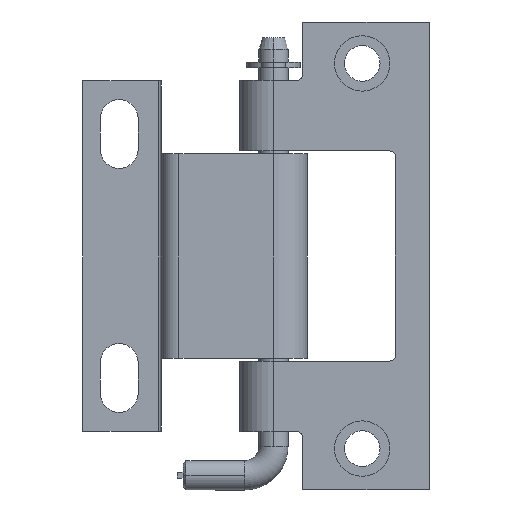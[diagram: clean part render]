
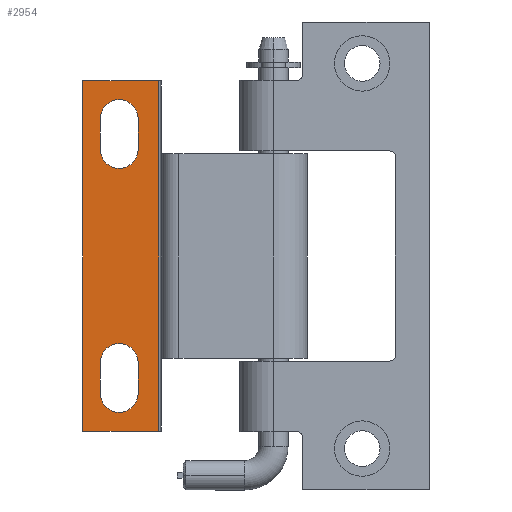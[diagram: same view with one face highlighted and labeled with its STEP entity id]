
A CAD part, front view. The second image highlights one B-rep face of the part: STEP entity #2954.
In plain terms, the highlighted planar face has unit normal (0, -1, 0) as drawn and (0, 1, 0) by its records, which use the part's own axes.
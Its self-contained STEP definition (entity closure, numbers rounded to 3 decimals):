
#50 = VECTOR ( 'NONE', #1164, 1000. ) ;
#61 = AXIS2_PLACEMENT_3D ( 'NONE', #1410, #773, #3834 ) ;
#133 = CARTESIAN_POINT ( 'NONE',  ( 26.45, -16.2, 6.45 ) ) ;
#160 = DIRECTION ( 'NONE',  ( 0., 0., 1. ) ) ;
#203 = DIRECTION ( 'NONE',  ( 0., 0., -1. ) ) ;
#282 = DIRECTION ( 'NONE',  ( 0., 0., 1. ) ) ;
#328 = VERTEX_POINT ( 'NONE', #2886 ) ;
#343 = EDGE_CURVE ( 'NONE', #703, #2964, #1605, .T. ) ;
#376 = DIRECTION ( 'NONE',  ( 0., 0., 1. ) ) ;
#389 = LINE ( 'NONE', #3189, #50 ) ;
#420 = CARTESIAN_POINT ( 'NONE',  ( 29.7, -16.2, 6.45 ) ) ;
#441 = ORIENTED_EDGE ( 'NONE', *, *, #2556, .F. ) ;
#483 = CARTESIAN_POINT ( 'NONE',  ( 29.7, -16.2, 48.25 ) ) ;
#560 = VERTEX_POINT ( 'NONE', #2332 ) ;
#566 = CARTESIAN_POINT ( 'NONE',  ( 26.45, -16.2, 11.75 ) ) ;
#569 = CARTESIAN_POINT ( 'NONE',  ( 19.2, -16.2, 0. ) ) ;
#628 = ORIENTED_EDGE ( 'NONE', *, *, #3349, .T. ) ;
#699 = CARTESIAN_POINT ( 'NONE',  ( 19.7, -16.2, 60. ) ) ;
#703 = VERTEX_POINT ( 'NONE', #3502 ) ;
#724 = VECTOR ( 'NONE', #2903, 1000. ) ;
#752 = EDGE_CURVE ( 'NONE', #3575, #328, #1660, .T. ) ;
#767 = LINE ( 'NONE', #1785, #1318 ) ;
#773 = DIRECTION ( 'NONE',  ( 0., 1., 0. ) ) ;
#844 = ORIENTED_EDGE ( 'NONE', *, *, #1267, .F. ) ;
#959 = CARTESIAN_POINT ( 'NONE',  ( 23.2, -16.2, 11.75 ) ) ;
#960 = FACE_BOUND ( 'NONE', #2741, .T. ) ;
#980 = CARTESIAN_POINT ( 'NONE',  ( 23.2, -16.2, 53.55 ) ) ;
#1001 = DIRECTION ( 'NONE',  ( 0., 1., 0. ) ) ;
#1054 = CARTESIAN_POINT ( 'NONE',  ( 23.2, -16.2, 53.55 ) ) ;
#1065 = CARTESIAN_POINT ( 'NONE',  ( 26.45, -16.2, 15. ) ) ;
#1140 = ORIENTED_EDGE ( 'NONE', *, *, #752, .F. ) ;
#1164 = DIRECTION ( 'NONE',  ( 0., 0., -1. ) ) ;
#1182 = CARTESIAN_POINT ( 'NONE',  ( 23.2, -16.2, 11.75 ) ) ;
#1194 = CARTESIAN_POINT ( 'NONE',  ( 32.7, -16.2, 0. ) ) ;
#1230 = DIRECTION ( 'NONE',  ( 0., 1., 0. ) ) ;
#1257 = EDGE_CURVE ( 'NONE', #4093, #703, #2765, .T. ) ;
#1258 = LINE ( 'NONE', #959, #3329 ) ;
#1267 = EDGE_CURVE ( 'NONE', #328, #1548, #1258, .T. ) ;
#1295 = ORIENTED_EDGE ( 'NONE', *, *, #1345, .F. ) ;
#1318 = VECTOR ( 'NONE', #3162, 1000. ) ;
#1324 = AXIS2_PLACEMENT_3D ( 'NONE', #2519, #3906, #376 ) ;
#1345 = EDGE_CURVE ( 'NONE', #1548, #3047, #3993, .T. ) ;
#1365 = DIRECTION ( 'NONE',  ( 0., -1., 0. ) ) ;
#1403 = LINE ( 'NONE', #1054, #2020 ) ;
#1410 = CARTESIAN_POINT ( 'NONE',  ( 26.45, -16.2, 11.75 ) ) ;
#1462 = VERTEX_POINT ( 'NONE', #3626 ) ;
#1476 = VERTEX_POINT ( 'NONE', #483 ) ;
#1494 = CARTESIAN_POINT ( 'NONE',  ( 29.7, -16.2, 11.75 ) ) ;
#1497 = VECTOR ( 'NONE', #3496, 1000. ) ;
#1512 = AXIS2_PLACEMENT_3D ( 'NONE', #133, #3939, #160 ) ;
#1529 = VERTEX_POINT ( 'NONE', #699 ) ;
#1548 = VERTEX_POINT ( 'NONE', #1182 ) ;
#1598 = EDGE_CURVE ( 'NONE', #1476, #2285, #4071, .T. ) ;
#1605 = CIRCLE ( 'NONE', #2484, 3.25 ) ;
#1607 = EDGE_LOOP ( 'NONE', ( #2947, #441, #3195, #628 ) ) ;
#1612 = DIRECTION ( 'NONE',  ( -1., 0., 0. ) ) ;
#1645 = CARTESIAN_POINT ( 'NONE',  ( 26.45, -16.2, 53.55 ) ) ;
#1646 = FACE_OUTER_BOUND ( 'NONE', #1607, .T. ) ;
#1659 = CIRCLE ( 'NONE', #2821, 3.25 ) ;
#1660 = CIRCLE ( 'NONE', #1512, 3.25 ) ;
#1678 = EDGE_LOOP ( 'NONE', ( #3086, #2428, #1295, #844, #1140 ) ) ;
#1694 = CARTESIAN_POINT ( 'NONE',  ( 19.2, -16.2, 60. ) ) ;
#1723 = DIRECTION ( 'NONE',  ( 0., 0., 1. ) ) ;
#1724 = ORIENTED_EDGE ( 'NONE', *, *, #3568, .F. ) ;
#1736 = AXIS2_PLACEMENT_3D ( 'NONE', #1645, #1230, #3390 ) ;
#1785 = CARTESIAN_POINT ( 'NONE',  ( 29.7, -16.2, 53.55 ) ) ;
#1838 = ORIENTED_EDGE ( 'NONE', *, *, #343, .F. ) ;
#1869 = CARTESIAN_POINT ( 'NONE',  ( 19.2, -16.2, 60. ) ) ;
#1897 = ORIENTED_EDGE ( 'NONE', *, *, #2408, .F. ) ;
#2011 = CARTESIAN_POINT ( 'NONE',  ( 29.7, -16.2, 53.55 ) ) ;
#2020 = VECTOR ( 'NONE', #1723, 1000. ) ;
#2256 = LINE ( 'NONE', #1494, #3836 ) ;
#2285 = VERTEX_POINT ( 'NONE', #3525 ) ;
#2295 = LINE ( 'NONE', #569, #2768 ) ;
#2332 = CARTESIAN_POINT ( 'NONE',  ( 19.7, -16.2, 0. ) ) ;
#2408 = EDGE_CURVE ( 'NONE', #2285, #4093, #1403, .T. ) ;
#2428 = ORIENTED_EDGE ( 'NONE', *, *, #2753, .F. ) ;
#2484 = AXIS2_PLACEMENT_3D ( 'NONE', #3293, #3623, #2935 ) ;
#2519 = CARTESIAN_POINT ( 'NONE',  ( 26.45, -16.2, 48.25 ) ) ;
#2556 = EDGE_CURVE ( 'NONE', #1529, #560, #389, .T. ) ;
#2589 = CARTESIAN_POINT ( 'NONE',  ( 32.7, -16.2, 60. ) ) ;
#2683 = DIRECTION ( 'NONE',  ( 1., 0., 0. ) ) ;
#2741 = EDGE_LOOP ( 'NONE', ( #1724, #1838, #3605, #1897, #2843 ) ) ;
#2753 = EDGE_CURVE ( 'NONE', #3047, #1462, #1659, .T. ) ;
#2765 = CIRCLE ( 'NONE', #1736, 3.25 ) ;
#2768 = VECTOR ( 'NONE', #1612, 1000. ) ;
#2821 = AXIS2_PLACEMENT_3D ( 'NONE', #566, #1001, #3030 ) ;
#2843 = ORIENTED_EDGE ( 'NONE', *, *, #1598, .F. ) ;
#2886 = CARTESIAN_POINT ( 'NONE',  ( 23.2, -16.2, 6.45 ) ) ;
#2903 = DIRECTION ( 'NONE',  ( 0., 0., -1. ) ) ;
#2935 = DIRECTION ( 'NONE',  ( 0., 0., 1. ) ) ;
#2947 = ORIENTED_EDGE ( 'NONE', *, *, #3754, .T. ) ;
#2954 = ADVANCED_FACE ( 'NONE', ( #960, #3369, #1646 ), #3025, .F. ) ;
#2964 = VERTEX_POINT ( 'NONE', #2011 ) ;
#3025 = PLANE ( 'NONE',  #3538 ) ;
#3030 = DIRECTION ( 'NONE',  ( 0., 0., 1. ) ) ;
#3047 = VERTEX_POINT ( 'NONE', #1065 ) ;
#3086 = ORIENTED_EDGE ( 'NONE', *, *, #4161, .F. ) ;
#3162 = DIRECTION ( 'NONE',  ( 0., 0., -1. ) ) ;
#3189 = CARTESIAN_POINT ( 'NONE',  ( 19.7, -16.2, 60. ) ) ;
#3195 = ORIENTED_EDGE ( 'NONE', *, *, #4411, .F. ) ;
#3293 = CARTESIAN_POINT ( 'NONE',  ( 26.45, -16.2, 53.55 ) ) ;
#3329 = VECTOR ( 'NONE', #282, 1000. ) ;
#3349 = EDGE_CURVE ( 'NONE', #4374, #3714, #4020, .T. ) ;
#3369 = FACE_BOUND ( 'NONE', #1678, .T. ) ;
#3390 = DIRECTION ( 'NONE',  ( 0., 0., 1. ) ) ;
#3496 = DIRECTION ( 'NONE',  ( -1., 0., 0. ) ) ;
#3502 = CARTESIAN_POINT ( 'NONE',  ( 26.45, -16.2, 56.8 ) ) ;
#3525 = CARTESIAN_POINT ( 'NONE',  ( 23.2, -16.2, 48.25 ) ) ;
#3538 = AXIS2_PLACEMENT_3D ( 'NONE', #1694, #1365, #2683 ) ;
#3568 = EDGE_CURVE ( 'NONE', #2964, #1476, #767, .T. ) ;
#3575 = VERTEX_POINT ( 'NONE', #420 ) ;
#3605 = ORIENTED_EDGE ( 'NONE', *, *, #1257, .F. ) ;
#3623 = DIRECTION ( 'NONE',  ( 0., 1., 0. ) ) ;
#3626 = CARTESIAN_POINT ( 'NONE',  ( 29.7, -16.2, 11.75 ) ) ;
#3714 = VERTEX_POINT ( 'NONE', #1194 ) ;
#3754 = EDGE_CURVE ( 'NONE', #3714, #560, #2295, .T. ) ;
#3834 = DIRECTION ( 'NONE',  ( 0., 0., 1. ) ) ;
#3836 = VECTOR ( 'NONE', #203, 1000. ) ;
#3906 = DIRECTION ( 'NONE',  ( 0., 1., 0. ) ) ;
#3939 = DIRECTION ( 'NONE',  ( 0., 1., 0. ) ) ;
#3993 = CIRCLE ( 'NONE', #61, 3.25 ) ;
#4020 = LINE ( 'NONE', #4313, #724 ) ;
#4071 = CIRCLE ( 'NONE', #1324, 3.25 ) ;
#4093 = VERTEX_POINT ( 'NONE', #980 ) ;
#4161 = EDGE_CURVE ( 'NONE', #1462, #3575, #2256, .T. ) ;
#4309 = LINE ( 'NONE', #1869, #1497 ) ;
#4313 = CARTESIAN_POINT ( 'NONE',  ( 32.7, -16.2, 60. ) ) ;
#4374 = VERTEX_POINT ( 'NONE', #2589 ) ;
#4411 = EDGE_CURVE ( 'NONE', #4374, #1529, #4309, .T. ) ;
